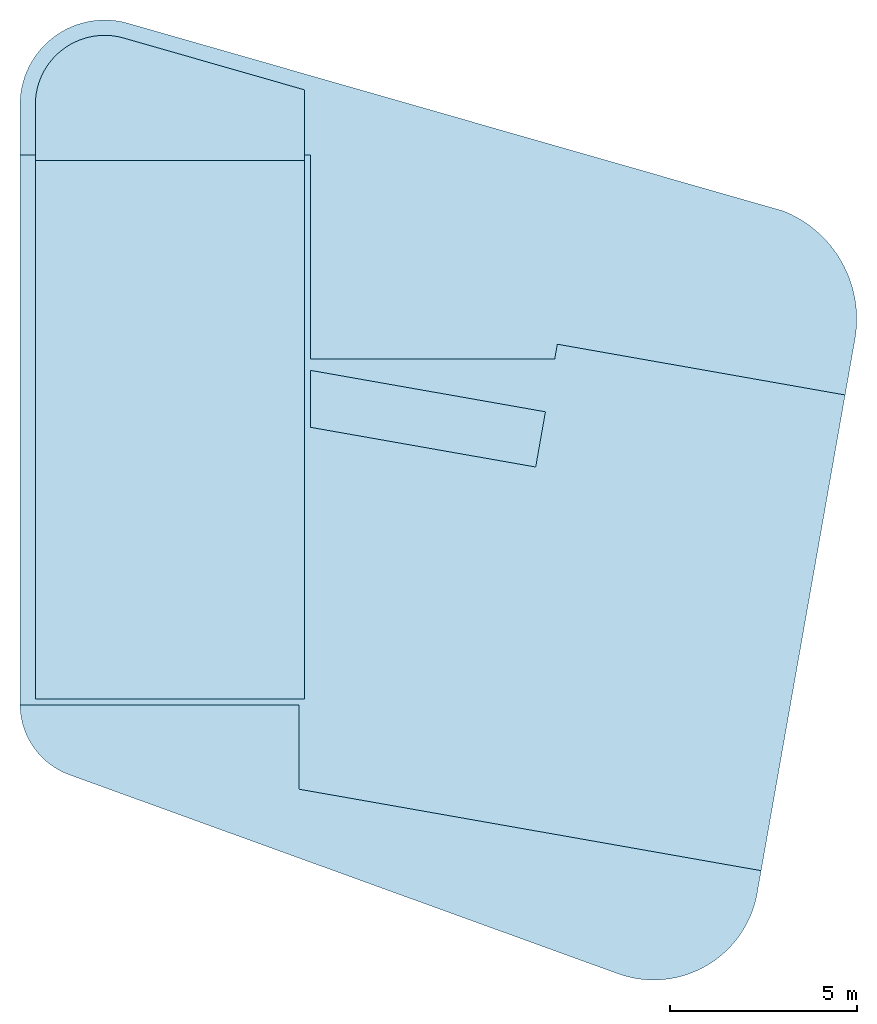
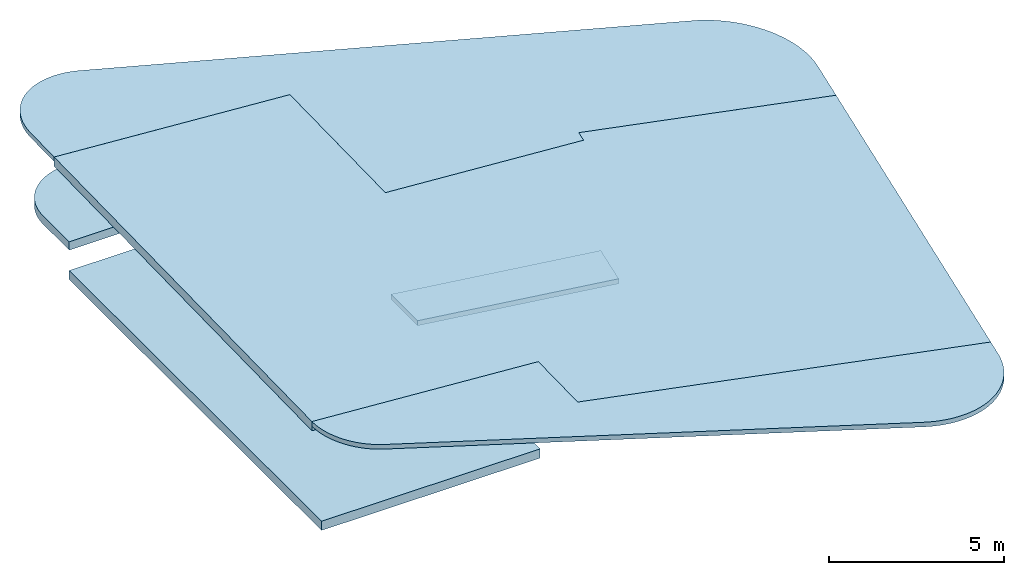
# One storey: 6 slabs.
"""IFC2X3 building model written with IfcOpenShell, lengths in millimetres."""

from ifc_helpers import new_model, entity, si_unit, converted_unit, derived_unit, direction, frame, frame_2d, origin, place, context, subcontext, project, spatial, polyline, circle_curve, ellipse_curve, parameter, trimmed, segment, composite_curve, rectangle, outline, extrude, clip, halfspace, material, layer, layer_set, layer_usage, type_object, element, save


model = new_model("IFC2X3")

# Units and contexts
model_context = context("Model", 3, precision=0.01, world=origin(), true_north=direction((6.12303176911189e-17, 1.0)))
context_of_model = context(None, 3, precision=0.01, world=origin(), true_north=direction((6.12303176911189e-17, 1.0)))
body_context = subcontext(model_context, "Body", "Model", "MODEL_VIEW")
ifc_project = project(units=[si_unit("LENGTHUNIT", "METRE", prefix="MILLI"), si_unit("AREAUNIT", "SQUARE_METRE"), si_unit("VOLUMEUNIT", "CUBIC_METRE"), converted_unit("PLANEANGLEUNIT", "DEGREE", entity("IfcRatioMeasure", 0.0174532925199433), si_unit("PLANEANGLEUNIT", "RADIAN"), dimensions=[0, 0, 0, 0, 0, 0, 0]), si_unit("MASSUNIT", "GRAM", prefix="KILO"), derived_unit("MASSDENSITYUNIT", [(si_unit("MASSUNIT", "GRAM", prefix="KILO"), 1), (si_unit("LENGTHUNIT", "METRE"), -3)]), derived_unit("MOMENTOFINERTIAUNIT", [(si_unit("LENGTHUNIT", "METRE"), 4)]), si_unit("TIMEUNIT", "SECOND"), si_unit("FREQUENCYUNIT", "HERTZ"), si_unit("THERMODYNAMICTEMPERATUREUNIT", "DEGREE_CELSIUS"), derived_unit("THERMALTRANSMITTANCEUNIT", [(si_unit("MASSUNIT", "GRAM", prefix="KILO"), 1), (si_unit("THERMODYNAMICTEMPERATUREUNIT", "KELVIN"), -1), (si_unit("TIMEUNIT", "SECOND"), -3)]), derived_unit("VOLUMETRICFLOWRATEUNIT", [(si_unit("LENGTHUNIT", "METRE"), 3), (si_unit("TIMEUNIT", "SECOND"), -1)]), si_unit("ELECTRICCURRENTUNIT", "AMPERE"), si_unit("ELECTRICVOLTAGEUNIT", "VOLT"), si_unit("POWERUNIT", "WATT"), si_unit("FORCEUNIT", "NEWTON", prefix="KILO"), si_unit("ILLUMINANCEUNIT", "LUX"), si_unit("LUMINOUSFLUXUNIT", "LUMEN"), si_unit("LUMINOUSINTENSITYUNIT", "CANDELA"), derived_unit("USERDEFINED", [(si_unit("MASSUNIT", "GRAM", prefix="KILO"), -1), (si_unit("LENGTHUNIT", "METRE"), -2), (si_unit("TIMEUNIT", "SECOND"), 3), (si_unit("LUMINOUSFLUXUNIT", "LUMEN"), 1)]), derived_unit("LINEARVELOCITYUNIT", [(si_unit("LENGTHUNIT", "METRE"), 1), (si_unit("TIMEUNIT", "SECOND"), -1)]), si_unit("PRESSUREUNIT", "PASCAL"), derived_unit("USERDEFINED", [(si_unit("LENGTHUNIT", "METRE"), -2), (si_unit("MASSUNIT", "GRAM", prefix="KILO"), 1), (si_unit("TIMEUNIT", "SECOND"), -2)]), derived_unit("LINEARFORCEUNIT", [(si_unit("MASSUNIT", "GRAM", prefix="KILO"), 1), (si_unit("LENGTHUNIT", "METRE"), 1), (si_unit("TIMEUNIT", "SECOND"), -2), (si_unit("LENGTHUNIT", "METRE"), -1)]), derived_unit("PLANARFORCEUNIT", [(si_unit("MASSUNIT", "GRAM", prefix="KILO"), 1), (si_unit("LENGTHUNIT", "METRE"), 1), (si_unit("TIMEUNIT", "SECOND"), -2), (si_unit("LENGTHUNIT", "METRE"), -2)])], contexts=[model_context, context_of_model])

# Site, building, storey
site_placement = place(None, origin())
site = spatial("IfcSite", under=ifc_project, at=site_placement, Name="Default", CompositionType="ELEMENT")
building_placement = place(site_placement, origin())
building = spatial("IfcBuilding", under=site, at=building_placement, Name="IFc", CompositionType="ELEMENT")
storey_placement = place(building_placement, frame((0.0, 0.0, 3700.0)))
storey = spatial("IfcBuildingStorey", under=building, at=storey_placement, Name="02 2e verd. b.k. ruwe vloer", CompositionType="ELEMENT", Elevation=3700.0)

# Slabs
ifc_material_1 = material(Name="IMd_hout")
ifc_layer_1 = layer(ifc_material_1, 320.0)
ifc_layer_set_1 = layer_set([ifc_layer_1], Name="Floor:NLRS_23_FL Houten kanaalplaat_d=320")
ifc_layer_usage_1 = layer_usage(ifc_layer_set_1, "AXIS3", "POSITIVE", 0.0)
slab_type_1 = type_object("IfcSlabType", Name="Floor:NLRS_23_FL Houten kanaalplaat_d=320", PredefinedType="FLOOR", material=ifc_layer_set_1)
slab_1_placement = place(storey_placement, origin())
element("IfcSlab", 1, at=slab_1_placement, inside=storey, type_object=slab_type_1, material=ifc_layer_usage_1, Name="Floor:NLRS_23_FL Houten kanaalplaat_d=320", ObjectType="Floor:NLRS_23_FL Houten kanaalplaat_d=320", PredefinedType="FLOOR", context=body_context, shape_type="SweptSolid", body=[
    extrude(rectangle(XDim=14400.0, YDim=7199.99999999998, at=frame_2d((-9.09494701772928e-13, -1.13686837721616e-12), x_axis=(1.0, 0.0))), frame((13575.0, 17200.0, 0.0), z_axis=(0.0, 0.0, -1.0), x_axis=(0.0, 1.0, 0.0)), (0.0, 0.0, 1.0), 320.0),
])
ifc_material_2 = material(Name="IMd_underlayment")
ifc_layer_2 = layer(ifc_material_2, 18.0)
ifc_layer_3 = layer(ifc_material_1, 271.0)
ifc_layer_set_2 = layer_set([ifc_layer_2, ifc_layer_3], Name="Floor:NLRS_23_FL Houten_balklaag_71x271+underlayment_d=18")
ifc_layer_usage_2 = layer_usage(ifc_layer_set_2, "AXIS3", "POSITIVE", 0.0)
slab_type_2 = type_object("IfcSlabType", Name="Floor:NLRS_23_FL Houten_balklaag_71x271+underlayment_d=18", PredefinedType="FLOOR", material=ifc_layer_set_2)
slab_2_placement = place(storey_placement, origin())
element("IfcSlab", 2, at=slab_2_placement, inside=storey, type_object=slab_type_2, material=ifc_layer_usage_2, Name="Floor:NLRS_23_FL Houten_balklaag_71x271+underlayment_d=18", ObjectType="Floor:NLRS_23_FL Houten_balklaag_71x271+underlayment_d=18", PredefinedType="FLOOR", context=body_context, shape_type="SweptSolid", body=[
    extrude(outline(composite_curve([segment(polyline([(-1331.68692037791, -3348.77309082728), (159.808929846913, -3348.77309082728)]), True, "CONTINUOUS"), segment(trimmed(circle_curve(frame_2d((159.808929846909, -1495.05480183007), x_axis=(0.0, -1.0)), 1853.71828899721), [parameter(0.0)], [parameter(105.318067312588)], True, "PARAMETER"), True, "CONTINUOUS"), segment(polyline([(1947.67232383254, -1005.34470451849), (555.892587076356, 3851.44544308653)]), True, "CONTINUOUS"), segment(polyline([(555.892587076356, 3851.44544308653), (-1331.68692037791, 3851.44544308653)]), True, "CONTINUOUS"), segment(polyline([(-1331.68692037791, 3851.44544308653), (-1331.68692037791, -3348.77309082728)]), True, "CONTINUOUS")], self_intersect=False)), frame((13323.5545569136, 25731.6869203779, 1000.0), z_axis=(0.0, 0.0, -1.0), x_axis=(0.0, 1.0, 0.0)), (0.0, 0.0, 1.0), 289.0),
])
ifc_layer_usage_3 = layer_usage(ifc_layer_set_1, "AXIS3", "POSITIVE", 0.0)
slab_type_3 = type_object("IfcSlabType", Name="Floor:NLRS_23_FL Houten kanaalplaat_d=320", PredefinedType="FLOOR", material=ifc_layer_set_1)
slab_3_placement = place(storey_placement, origin())
element("IfcSlab", 3, at=slab_3_placement, inside=storey, type_object=slab_type_3, material=ifc_layer_usage_3, Name="Floor:NLRS_23_FL Houten kanaalplaat_d=320", ObjectType="Floor:NLRS_23_FL Houten kanaalplaat_d=320", PredefinedType="FLOOR", context=body_context, shape_type="Clipping", body=[
    clip(clip(extrude(outline(polyline([(-5905.30636392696, -10122.4704050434), (8803.67846207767, -10122.4704050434), (8792.68551664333, -2337.32468667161), (3341.57934897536, -2337.32468667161), (3332.33858734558, 4206.93374398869), (3721.90039580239, 4275.79651539), (2354.24800186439, 11987.7802699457), (-10360.4875951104, 9737.23744257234), (-8164.77019384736, -2644.0788942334), (-5915.86615982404, -2644.0788942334), (-5905.30636392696, -10122.4704050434)])), frame((19662.577975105, 15762.3984709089, 3120.16670424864), z_axis=(-0.0700806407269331, 0.0200951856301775, -0.997338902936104), x_axis=(0.0, 0.999797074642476, 0.0201447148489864)), (-0.0201447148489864, 0.0700664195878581, 0.997338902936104), 321.709924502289), halfspace(frame((30201.6171043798, 11811.1263764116, 1979.14617683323), z_axis=(-0.070080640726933, 0.0200951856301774, -0.997338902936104), x_axis=(-0.958704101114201, 0.274902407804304, 0.0729048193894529)), False)), halfspace(frame((30201.6171043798, 11811.1263764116, 2300.0), z_axis=(0.070080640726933, -0.0200951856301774, 0.997338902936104), x_axis=(0.958704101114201, -0.274902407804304, -0.0729048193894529)), False)),
])
ifc_material_3 = material(Name="IMd_staal")
ifc_layer_4 = layer(ifc_material_3, 160.0)
ifc_layer_set_3 = layer_set([ifc_layer_4], Name="Floor:NLRS_23_FL stalen liggers_bk_h=160")
ifc_layer_usage_4 = layer_usage(ifc_layer_set_3, "AXIS3", "POSITIVE", 0.0)
slab_type_4 = type_object("IfcSlabType", Name="Floor:NLRS_23_FL stalen liggers_bk_h=160", PredefinedType="FLOOR")
slab_4_placement = place(storey_placement, frame((9564.99539077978, 2495.57591542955, 2063.09426457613)))
element("IfcSlab", 4, at=slab_4_placement, inside=storey, type_object=slab_type_4, material=ifc_layer_usage_4, Name="Floor:NLRS_23_FL stalen liggers_bk_h=160", ObjectType="Floor:NLRS_23_FL stalen liggers_bk_h=160", PredefinedType="FLOOR", context=body_context, shape_type="SweptSolid", body=[
    extrude(outline(composite_curve([segment(polyline([(-12902.3397081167, 12759.6778222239), (-12902.3397081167, 7308.61213069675)]), True, "CONTINUOUS"), segment(polyline([(-12902.3397081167, 7308.61213069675), (-6358.07412430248, 7299.37135896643)]), True, "CONTINUOUS"), segment(polyline([(-6358.07412430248, 7299.37135896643), (-6289.21850607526, 7688.89270138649)]), True, "CONTINUOUS"), segment(polyline([(-6289.21850607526, 7688.89270138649), (1422.76524851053, 6321.24030744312)]), True, "CONTINUOUS"), segment(polyline([(1422.76524851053, 6321.24030744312), (1685.83963711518, 7807.51342020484)]), True, "CONTINUOUS"), segment(trimmed(ellipse_curve(frame_2d((-1384.33931178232, 8352.69408704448), x_axis=(0.276315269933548, 0.96106704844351)), 3110.0, 3118.29809390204), [parameter(275.987007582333)], [parameter(354.297731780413)], True, "PARAMETER"), True, "CONTINUOUS"), segment(polyline([(-231.482379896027, 11241.2112016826), (-17794.0274723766, 16286.0159411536)]), True, "CONTINUOUS"), segment(trimmed(ellipse_curve(frame_2d((-18418.8247961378, 14110.8902439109), x_axis=(0.276315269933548, 0.96106704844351)), 2263.08274108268, 2269.12109255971), [parameter(0.0138453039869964)], [parameter(105.999913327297)], True, "PARAMETER"), True, "CONTINUOUS"), segment(polyline([(-20687.4854264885, 14114.0936858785), (-20687.4854264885, 12770.6707676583)]), True, "CONTINUOUS"), segment(polyline([(-20687.4854264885, 12770.6707676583), (-12902.3397081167, 12759.6778222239)]), True, "CONTINUOUS")], self_intersect=False)), frame((20636.6217136, 9315.55046098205, 236.905735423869), z_axis=(0.070080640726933, -0.0200951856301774, 0.997338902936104), x_axis=(0.997541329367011, 0.00141175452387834, -0.070066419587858)), (0.070066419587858, -0.0201447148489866, -0.997338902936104), 160.426911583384),
])
slab_type_5 = type_object("IfcSlabType", Name="Floor:NLRS_23_FL stalen liggers_bk_h=160", PredefinedType="FLOOR", material=ifc_layer_set_3)
slab_5_placement = place(storey_placement, frame((9564.99539077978, 2495.57591542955, 2063.09426457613)))
element("IfcSlab", 5, at=slab_5_placement, inside=storey, type_object=slab_type_5, material=ifc_layer_usage_4, Name="Floor:NLRS_23_FL stalen liggers_bk_h=160:2", ObjectType="Floor:NLRS_23_FL stalen liggers_bk_h=160", PredefinedType="FLOOR", context=body_context, shape_type="SweptSolid", body=[
    extrude(outline(composite_curve([segment(polyline([(-13209.0939156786, -4197.77788826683), (-13209.0939156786, -1948.87385424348)]), True, "CONTINUOUS"), segment(polyline([(-13209.0939156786, -1948.87385424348), (-20687.3459251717, -1938.31425532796)]), True, "CONTINUOUS"), segment(trimmed(ellipse_curve(frame_2d((-18672.5313179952, -1917.502878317), x_axis=(0.276315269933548, 0.96106704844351)), 2010.0, 2015.36307676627), [parameter(106.674125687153)], [parameter(176.067449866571)], True, "PARAMETER"), True, "CONTINUOUS"), segment(polyline([(-19359.4538717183, -3806.50762842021), (-4668.49223641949, -9142.70238783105)]), True, "CONTINUOUS"), segment(trimmed(ellipse_curve(frame_2d((-3708.16767126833, -6501.85495113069), x_axis=(0.276315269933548, 0.96106704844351)), 2809.99999998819, 2817.49763467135), [parameter(176.067449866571)], [parameter(275.987007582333)], True, "PARAMETER"), True, "CONTINUOUS"), segment(polyline([(-934.147463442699, -6994.44584303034), (-827.777578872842, -6393.49528952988)]), True, "CONTINUOUS"), segment(polyline([(-827.777578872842, -6393.49528952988), (-13209.0939156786, -4197.77788826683)]), True, "CONTINUOUS")], self_intersect=False)), frame((20636.6217136, 9315.55046098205, 236.905735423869), z_axis=(0.070080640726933, -0.0200951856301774, 0.997338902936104), x_axis=(0.997541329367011, 0.00141175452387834, -0.070066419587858)), (0.070066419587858, -0.0201447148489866, -0.997338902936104), 160.426911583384),
])
ifc_layer_5 = layer(ifc_material_2, 18.0)
ifc_layer_6 = layer(ifc_material_1, 156.0)
ifc_layer_set_4 = layer_set([ifc_layer_5, ifc_layer_6], Name="Floor:NLRS_23_FL Houten_balklaag_59x156+underlayment_d=18")
ifc_layer_usage_5 = layer_usage(ifc_layer_set_4, "AXIS3", "POSITIVE", 0.0)
slab_type_6 = type_object("IfcSlabType", Name="Floor:NLRS_23_FL Houten_balklaag_59x156+underlayment_d=18", PredefinedType="FLOOR", material=ifc_layer_set_4)
slab_6_placement = place(storey_placement, origin())
element("IfcSlab", 6, at=slab_6_placement, inside=storey, type_object=slab_type_6, material=ifc_layer_usage_5, Name="Floor:NLRS_23_FL Houten_balklaag_59x156+underlayment_d=18", ObjectType="Floor:NLRS_23_FL Houten_balklaag_59x156+underlayment_d=18", PredefinedType="FLOOR", context=body_context, shape_type="SweptSolid", body=[
    extrude(outline(polyline([(-219.037214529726, -3074.11750984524), (1303.13693223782, -3074.11750984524), (196.087631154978, 3204.27106480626), (-1280.18734886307, 2943.96395488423), (-219.037214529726, -3074.11750984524)])), frame((20405.1175098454, 17487.3414108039, 0.0), z_axis=(0.0, 0.0, -1.0), x_axis=(0.0, 1.0, 0.0)), (0.0, 0.0, 1.0), 174.0),
])

save(model, "model.ifc")
